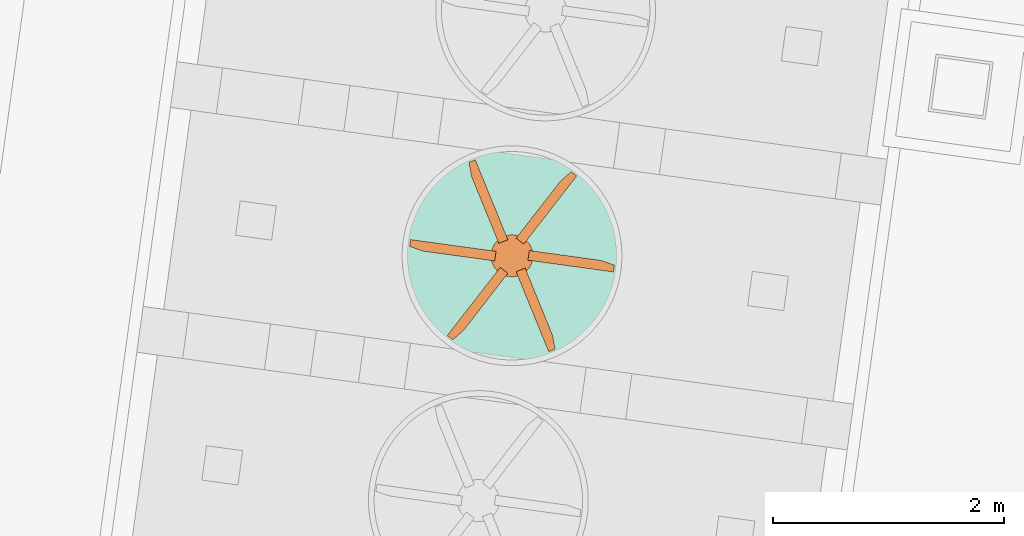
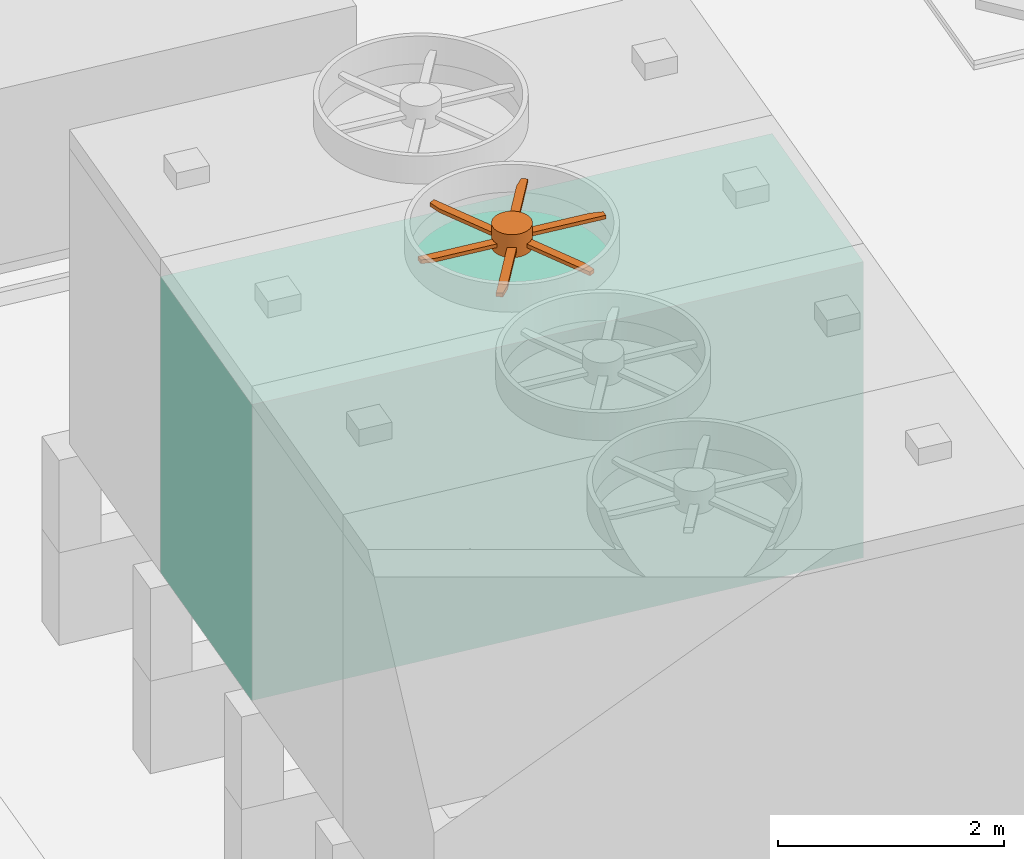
# Not in any storey, part 43 of 75: 7 proxies, plus 1 element that does not belong to this part.
"""IFC4 model written with IfcOpenShell, lengths in metres."""

from ifc_helpers import new_model, si_unit, direction, origin_with_axes, place, context, subcontext, project, spatial, triangles, element, aggregate, save


model = new_model("IFC4")

# Units and contexts
model_context = context("Model", 3, precision=1e-05, world=origin_with_axes(), true_north=direction((0.0, 1.0)))
body_context = subcontext(model_context, "Body", "Model", "MODEL_VIEW")
ifc_project = project(units=[si_unit("AREAUNIT", "SQUARE_METRE"), si_unit("VOLUMEUNIT", "CUBIC_METRE"), si_unit("LENGTHUNIT", "METRE")], contexts=[model_context])

# Site
site_placement = place(None, origin_with_axes())
site = spatial("IfcSite", under=ifc_project, at=site_placement, Name="Parcela industrial Jinhong")

# Cooling tower, proxies
cooling_tower_placement = place(site_placement, origin_with_axes())
cooling_tower = element("IfcCoolingTower", 1, at=cooling_tower_placement, inside=site, Name="Torre de refrigeración WT3001B · Envolvente del cuerpo de la torre", ObjectType="Envolvente de equipo", PredefinedType="USERDEFINED", context=body_context, shape_type="Tessellation", body=[
    triangles([(42.240363, 46.344292, 6.3), (36.736357, 49.261142, 6.3), (36.44488, 47.141085, 6.3), (36.736357, 49.261142, 3.1), (42.240363, 46.344292, 3.1), (36.44488, 47.141085, 3.1), (42.53184, 48.464349, 6.3), (42.53184, 48.464349, 3.1)], [[1, 2, 3], [4, 5, 6], [1, 7, 2], [5, 4, 8], [5, 8, 7], [5, 7, 1], [8, 4, 2], [7, 8, 2], [3, 4, 6], [4, 3, 2], [6, 5, 1], [3, 6, 1]], closed=True),
])
proxy_1_placement = place(cooling_tower_placement, origin_with_axes())
proxy_1 = element("IfcBuildingElementProxy", 2, at=proxy_1_placement, Name="Torre de refrigeración WT3001B · Pala de ventilador 1 · contorno CAD", context=body_context, shape_type="Tessellation", body=[
    triangles([(39.170679, 48.634088, 6.66), (39.374051, 47.909715, 6.66), (39.452796, 47.941805, 6.66), (39.170679, 48.634088, 6.62), (39.452796, 47.941805, 6.62), (39.374051, 47.909715, 6.62), (39.114607, 48.610435, 6.66), (39.142441, 48.622741, 6.66), (39.142441, 48.622741, 6.62), (39.114607, 48.610435, 6.62), (39.138424, 48.487918, 6.66), (39.138424, 48.487918, 6.62)], [[1, 2, 3], [4, 5, 6], [8, 7, 1], [9, 4, 10], [11, 2, 7], [10, 6, 12], [2, 1, 7], [6, 10, 4], [8, 4, 9], [8, 1, 4], [7, 9, 10], [7, 8, 9], [11, 10, 12], [10, 11, 7], [6, 2, 12], [12, 2, 11], [6, 5, 3], [6, 3, 2], [4, 1, 5], [1, 3, 5]], closed=True),
])
proxy_2_placement = place(cooling_tower_placement, origin_with_axes())
proxy_2 = element("IfcBuildingElementProxy", 3, at=proxy_2_placement, Name="Torre de refrigeración WT3001B · Pala de ventilador 2 · contorno CAD", context=body_context, shape_type="Tessellation", body=[
    triangles([(39.602668, 47.695718, 6.66), (39.523923, 47.663628, 6.66), (39.806041, 46.971345, 6.66), (39.523923, 47.663628, 6.62), (39.602668, 47.695718, 6.62), (39.806041, 46.971345, 6.62), (39.862113, 46.994999, 6.66), (39.834279, 46.982692, 6.66), (39.834279, 46.982692, 6.62), (39.862113, 46.994999, 6.62), (39.838296, 47.117515, 6.66), (39.838296, 47.117515, 6.62)], [[1, 2, 3], [4, 5, 6], [8, 7, 3], [9, 6, 10], [11, 1, 7], [10, 5, 12], [1, 3, 7], [5, 10, 6], [8, 6, 9], [8, 3, 6], [7, 9, 10], [7, 8, 9], [11, 10, 12], [10, 11, 7], [5, 1, 12], [12, 1, 11], [5, 4, 2], [5, 2, 1], [3, 4, 6], [4, 3, 2]], closed=True),
])
proxy_3_placement = place(cooling_tower_placement, origin_with_axes())
proxy_3 = element("IfcBuildingElementProxy", 4, at=proxy_3_placement, Name="Torre de refrigeración WT3001B · Pala de ventilador 3 · contorno CAD", context=body_context, shape_type="Tessellation", body=[
    triangles([(39.452851, 47.650223, 6.66), (39.385688, 47.702374, 6.66), (38.927212, 47.111911, 6.66), (39.385688, 47.702374, 6.62), (39.452851, 47.650223, 6.62), (38.927212, 47.111911, 6.62), (38.975732, 47.075178, 6.66), (38.951158, 47.09313, 6.66), (38.951158, 47.09313, 6.62), (38.975732, 47.075178, 6.62), (39.069926, 47.157063, 6.66), (39.069926, 47.157063, 6.62)], [[1, 2, 3], [4, 5, 6], [8, 7, 3], [9, 6, 10], [11, 1, 7], [10, 5, 12], [1, 3, 7], [5, 10, 6], [8, 6, 9], [8, 3, 6], [7, 9, 10], [7, 8, 9], [11, 10, 12], [10, 11, 7], [5, 1, 12], [12, 1, 11], [5, 4, 2], [5, 2, 1], [3, 4, 6], [4, 3, 2]], closed=True),
])
proxy_4_placement = place(cooling_tower_placement, origin_with_axes())
proxy_4 = element("IfcBuildingElementProxy", 5, at=proxy_4_placement, Name="Torre de refrigeración WT3001B · Pala de ventilador 4 · contorno CAD", context=body_context, shape_type="Tessellation", body=[
    triangles([(40.049508, 48.493523, 6.66), (39.523869, 47.95521, 6.66), (39.591032, 47.90306, 6.66), (40.049508, 48.493523, 6.62), (39.591032, 47.90306, 6.62), (39.523869, 47.95521, 6.62), (40.000987, 48.530255, 6.66), (40.025562, 48.512304, 6.66), (40.025562, 48.512304, 6.62), (40.000987, 48.530255, 6.62), (39.906793, 48.448371, 6.66), (39.906793, 48.448371, 6.62)], [[1, 2, 3], [4, 5, 6], [8, 7, 1], [9, 4, 10], [11, 2, 7], [10, 6, 12], [2, 1, 7], [6, 10, 4], [8, 4, 9], [8, 1, 4], [7, 9, 10], [7, 8, 9], [11, 10, 12], [10, 11, 7], [6, 2, 12], [12, 2, 11], [6, 5, 3], [6, 3, 2], [4, 1, 5], [1, 3, 5]], closed=True),
])
proxy_5_placement = place(cooling_tower_placement, origin_with_axes())
proxy_5 = element("IfcBuildingElementProxy", 6, at=proxy_5_placement, Name="Torre de refrigeración WT3001B · Pala de ventilador 5 · contorno CAD", context=body_context, shape_type="Tessellation", body=[
    triangles([(40.367189, 47.662151, 6.66), (39.638177, 47.848212, 6.66), (39.626596, 47.763971, 6.66), (39.638177, 47.848212, 6.62), (40.367189, 47.662151, 6.62), (39.626596, 47.763971, 6.62), (40.374741, 47.722537, 6.66), (40.371481, 47.69228, 6.66), (40.371481, 47.69228, 6.62), (40.374741, 47.722537, 6.62), (40.25673, 47.76317, 6.66), (40.25673, 47.76317, 6.62)], [[1, 2, 3], [4, 5, 6], [8, 7, 1], [9, 5, 10], [11, 2, 7], [10, 4, 12], [7, 2, 1], [5, 4, 10], [5, 9, 8], [5, 8, 1], [7, 9, 10], [7, 8, 9], [11, 10, 12], [10, 11, 7], [12, 4, 2], [11, 12, 2], [3, 4, 6], [4, 3, 2], [6, 5, 1], [3, 6, 1]], closed=True),
])
proxy_6_placement = place(cooling_tower_placement, origin_with_axes())
proxy_6 = element("IfcBuildingElementProxy", 7, at=proxy_6_placement, Name="Torre de refrigeración WT3001B · Pala de ventilador 6 · contorno CAD", context=body_context, shape_type="Tessellation", body=[
    triangles([(39.350124, 47.841462, 6.66), (38.609531, 47.943283, 6.66), (39.338542, 47.757222, 6.66), (38.609531, 47.943283, 6.62), (39.350124, 47.841462, 6.62), (39.338542, 47.757222, 6.62), (38.601979, 47.882896, 6.66), (38.605239, 47.913154, 6.66), (38.605239, 47.913154, 6.62), (38.601979, 47.882896, 6.62), (38.71999, 47.842264, 6.66), (38.71999, 47.842264, 6.62)], [[1, 2, 3], [4, 5, 6], [8, 7, 2], [9, 4, 10], [11, 3, 7], [10, 6, 12], [7, 3, 2], [10, 4, 6], [4, 9, 8], [4, 8, 2], [7, 9, 10], [7, 8, 9], [11, 10, 12], [10, 11, 7], [12, 6, 3], [11, 12, 3], [5, 1, 6], [1, 3, 6], [5, 4, 2], [5, 2, 1]], closed=True),
])
proxy_7_placement = place(cooling_tower_placement, origin_with_axes())
proxy_7 = element("IfcBuildingElementProxy", 8, at=proxy_7_placement, Name="Torre de refrigeración WT3001B · Envolvente del buje del ventilador", context=body_context, shape_type="Tessellation", body=[
    triangles([(39.668857, 47.777901, 6.8), (39.665556, 47.760329, 6.8), (39.667422, 47.769074, 6.8), (39.665556, 47.760329, 6.55), (39.668857, 47.777901, 6.55), (39.667422, 47.769074, 6.55), (39.67042, 47.795712, 6.8), (39.669857, 47.786788, 6.8), (39.669857, 47.786788, 6.55), (39.67042, 47.795712, 6.55), (39.67023, 47.813591, 6.8), (39.670545, 47.804654, 6.8), (39.670545, 47.804654, 6.55), (39.67023, 47.813591, 6.55), (39.668289, 47.831365, 6.8), (39.669478, 47.822502, 6.8), (39.669478, 47.822502, 6.55), (39.668289, 47.831365, 6.55), (39.664614, 47.848863, 6.8), (39.666666, 47.840159, 6.8), (39.666666, 47.840159, 6.55), (39.664614, 47.848863, 6.55), (39.659242, 47.865917, 6.8), (39.662138, 47.857456, 6.8), (39.662138, 47.857456, 6.55), (39.659242, 47.865917, 6.55), (39.652225, 47.882362, 6.8), (39.655935, 47.874226, 6.8), (39.655935, 47.874226, 6.55), (39.652225, 47.882362, 6.55), (39.643629, 47.89804, 6.8), (39.648119, 47.890307, 6.8), (39.648119, 47.890307, 6.55), (39.643629, 47.89804, 6.55), (39.633538, 47.9128, 6.8), (39.638765, 47.905544, 6.8), (39.638765, 47.905544, 6.55), (39.633538, 47.9128, 6.55), (39.622049, 47.9265, 6.8), (39.627962, 47.919791, 6.8), (39.627962, 47.919791, 6.55), (39.622049, 47.9265, 6.55), (39.609272, 47.939008, 6.8), (39.615814, 47.932911, 6.8), (39.615814, 47.932911, 6.55), (39.609272, 47.939008, 6.55), (39.595331, 47.950203, 6.8), (39.602439, 47.944777, 6.8), (39.602439, 47.944777, 6.55), (39.595331, 47.950203, 6.55), (39.58036, 47.959978, 6.8), (39.587966, 47.955274, 6.8), (39.587966, 47.955274, 6.55), (39.58036, 47.959978, 6.55), (39.564503, 47.968238, 6.8), (39.572533, 47.964303, 6.8), (39.572533, 47.964303, 6.55), (39.564503, 47.968238, 6.55), (39.547912, 47.974905, 6.8), (39.556289, 47.971775, 6.8), (39.556289, 47.971775, 6.55), (39.547912, 47.974905, 6.55), (39.530748, 47.979913, 6.8), (39.539392, 47.977619, 6.8), (39.539392, 47.977619, 6.55), (39.530748, 47.979913, 6.55), (39.513176, 47.983214, 6.8), (39.522002, 47.981779, 6.8), (39.522002, 47.981779, 6.55), (39.513176, 47.983214, 6.55), (39.495364, 47.984777, 6.8), (39.504289, 47.984214, 6.8), (39.504289, 47.984214, 6.55), (39.495364, 47.984777, 6.55), (39.486423, 47.984902, 6.8), (39.477486, 47.984587, 6.8), (39.477486, 47.984587, 6.55), (39.486423, 47.984902, 6.55), (39.459712, 47.982645, 6.8), (39.468575, 47.983834, 6.8), (39.468575, 47.983834, 6.55), (39.459712, 47.982645, 6.55), (39.442213, 47.978971, 6.8), (39.450917, 47.981023, 6.8), (39.450917, 47.981023, 6.55), (39.442213, 47.978971, 6.55), (39.42516, 47.973599, 6.8), (39.433621, 47.976494, 6.8), (39.433621, 47.976494, 6.55), (39.42516, 47.973599, 6.55), (39.408715, 47.966582, 6.8), (39.416851, 47.970292, 6.8), (39.416851, 47.970292, 6.55), (39.408715, 47.966582, 6.55), (39.393036, 47.957986, 6.8), (39.40077, 47.962476, 6.8), (39.40077, 47.962476, 6.55), (39.393036, 47.957986, 6.55), (39.378276, 47.947895, 6.8), (39.385533, 47.953122, 6.8), (39.385533, 47.953122, 6.55), (39.378276, 47.947895, 6.55), (39.364577, 47.936406, 6.8), (39.371286, 47.942319, 6.8), (39.371286, 47.942319, 6.55), (39.364577, 47.936406, 6.55), (39.352069, 47.923629, 6.8), (39.358166, 47.930171, 6.8), (39.358166, 47.930171, 6.55), (39.352069, 47.923629, 6.55), (39.340874, 47.909688, 6.8), (39.3463, 47.916796, 6.8), (39.3463, 47.916796, 6.55), (39.340874, 47.909688, 6.55), (39.331099, 47.894717, 6.8), (39.335802, 47.902322, 6.8), (39.335802, 47.902322, 6.55), (39.331099, 47.894717, 6.55), (39.322838, 47.878859, 6.8), (39.326774, 47.88689, 6.8), (39.326774, 47.88689, 6.55), (39.322838, 47.878859, 6.55), (39.316172, 47.862269, 6.8), (39.319302, 47.870646, 6.8), (39.319302, 47.870646, 6.55), (39.316172, 47.862269, 6.55), (39.311164, 47.845105, 6.8), (39.313458, 47.853748, 6.8), (39.313458, 47.853748, 6.55), (39.311164, 47.845105, 6.55), (39.307863, 47.827532, 6.8), (39.309298, 47.836359, 6.8), (39.309298, 47.836359, 6.55), (39.307863, 47.827532, 6.55), (39.306299, 47.809721, 6.8), (39.306862, 47.818646, 6.8), (39.306862, 47.818646, 6.55), (39.306299, 47.809721, 6.55), (39.30649, 47.791842, 6.8), (39.306175, 47.800779, 6.8), (39.306175, 47.800779, 6.55), (39.30649, 47.791842, 6.55), (39.308431, 47.774068, 6.8), (39.307242, 47.782931, 6.8), (39.307242, 47.782931, 6.55), (39.308431, 47.774068, 6.55), (39.312106, 47.75657, 6.8), (39.310054, 47.765274, 6.8), (39.310054, 47.765274, 6.55), (39.312106, 47.75657, 6.55), (39.317478, 47.739516, 6.8), (39.314582, 47.747977, 6.8), (39.314582, 47.747977, 6.55), (39.317478, 47.739516, 6.55), (39.324495, 47.723071, 6.8), (39.320784, 47.731208, 6.8), (39.320784, 47.731208, 6.55), (39.324495, 47.723071, 6.55), (39.333091, 47.707393, 6.8), (39.3286, 47.715127, 6.8), (39.3286, 47.715127, 6.55), (39.333091, 47.707393, 6.55), (39.343182, 47.692633, 6.8), (39.337955, 47.699889, 6.8), (39.337955, 47.699889, 6.55), (39.343182, 47.692633, 6.55), (39.354671, 47.678933, 6.8), (39.348758, 47.685642, 6.8), (39.348758, 47.685642, 6.55), (39.354671, 47.678933, 6.55), (39.367448, 47.666426, 6.8), (39.360906, 47.672523, 6.8), (39.360906, 47.672523, 6.55), (39.367448, 47.666426, 6.55), (39.381389, 47.65523, 6.8), (39.374281, 47.660657, 6.8), (39.374281, 47.660657, 6.55), (39.381389, 47.65523, 6.55), (39.39636, 47.645456, 6.8), (39.388754, 47.650159, 6.8), (39.388754, 47.650159, 6.55), (39.39636, 47.645456, 6.55), (39.412217, 47.637195, 6.8), (39.404187, 47.641131, 6.8), (39.404187, 47.641131, 6.55), (39.412217, 47.637195, 6.55), (39.428808, 47.630529, 6.8), (39.420431, 47.633658, 6.8), (39.420431, 47.633658, 6.55), (39.428808, 47.630529, 6.55), (39.445972, 47.625521, 6.8), (39.437328, 47.627814, 6.8), (39.437328, 47.627814, 6.55), (39.445972, 47.625521, 6.55), (39.463544, 47.622219, 6.8), (39.454718, 47.623655, 6.8), (39.454718, 47.623655, 6.55), (39.463544, 47.622219, 6.55), (39.481356, 47.620656, 6.8), (39.472431, 47.621219, 6.8), (39.472431, 47.621219, 6.55), (39.481356, 47.620656, 6.55), (39.499234, 47.620846, 6.8), (39.490297, 47.620532, 6.8), (39.490297, 47.620532, 6.55), (39.499234, 47.620846, 6.55), (39.517008, 47.622788, 6.8), (39.508145, 47.621599, 6.8), (39.508145, 47.621599, 6.55), (39.517008, 47.622788, 6.55), (39.534507, 47.626462, 6.8), (39.525803, 47.62441, 6.8), (39.525803, 47.62441, 6.55), (39.534507, 47.626462, 6.55), (39.55156, 47.631834, 6.8), (39.543099, 47.628939, 6.8), (39.543099, 47.628939, 6.55), (39.55156, 47.631834, 6.55), (39.568005, 47.638852, 6.8), (39.559869, 47.635141, 6.8), (39.559869, 47.635141, 6.55), (39.568005, 47.638852, 6.55), (39.583683, 47.647448, 6.8), (39.57595, 47.642957, 6.8), (39.57595, 47.642957, 6.55), (39.583683, 47.647448, 6.55), (39.598443, 47.657539, 6.8), (39.591187, 47.652312, 6.8), (39.591187, 47.652312, 6.55), (39.598443, 47.657539, 6.55), (39.612143, 47.669028, 6.8), (39.605434, 47.663115, 6.8), (39.605434, 47.663115, 6.55), (39.612143, 47.669028, 6.55), (39.624651, 47.681804, 6.8), (39.618554, 47.675262, 6.8), (39.618554, 47.675262, 6.55), (39.624651, 47.681804, 6.55), (39.635846, 47.695745, 6.8), (39.63042, 47.688637, 6.8), (39.63042, 47.688637, 6.55), (39.635846, 47.695745, 6.55), (39.645621, 47.710717, 6.8), (39.640917, 47.703111, 6.8), (39.640917, 47.703111, 6.55), (39.645621, 47.710717, 6.55), (39.653881, 47.726574, 6.8), (39.649946, 47.718544, 6.8), (39.649946, 47.718544, 6.55), (39.653881, 47.726574, 6.55), (39.660548, 47.743165, 6.8), (39.657418, 47.734787, 6.8), (39.657418, 47.734787, 6.55), (39.660548, 47.743165, 6.55), (39.663262, 47.751685, 6.8), (39.663262, 47.751685, 6.55)], [[1, 2, 3], [4, 5, 6], [8, 7, 1], [9, 5, 10], [12, 11, 7], [13, 10, 14], [16, 15, 11], [17, 14, 18], [20, 19, 15], [21, 18, 22], [24, 23, 19], [25, 22, 26], [28, 27, 23], [29, 26, 30], [32, 31, 27], [33, 30, 34], [36, 35, 31], [37, 34, 38], [40, 39, 35], [41, 38, 42], [44, 43, 39], [45, 42, 46], [48, 47, 43], [49, 46, 50], [52, 51, 47], [53, 50, 54], [56, 55, 51], [57, 54, 58], [60, 59, 55], [61, 58, 62], [64, 63, 59], [65, 62, 66], [68, 67, 63], [69, 66, 70], [72, 71, 67], [73, 70, 74], [71, 75, 76], [77, 78, 74], [80, 79, 76], [81, 77, 82], [84, 83, 79], [85, 82, 86], [88, 87, 83], [89, 86, 90], [92, 91, 87], [93, 90, 94], [96, 95, 91], [97, 94, 98], [100, 99, 95], [101, 98, 102], [104, 103, 99], [105, 102, 106], [108, 107, 103], [109, 106, 110], [112, 111, 107], [113, 110, 114], [116, 115, 111], [117, 114, 118], [120, 119, 115], [121, 118, 122], [124, 123, 119], [125, 122, 126], [128, 127, 123], [129, 126, 130], [132, 131, 127], [133, 130, 134], [136, 135, 131], [137, 134, 138], [140, 139, 135], [141, 138, 142], [144, 143, 139], [145, 142, 146], [148, 147, 143], [149, 146, 150], [152, 151, 147], [153, 150, 154], [156, 155, 151], [157, 154, 158], [160, 159, 155], [161, 158, 162], [164, 163, 159], [165, 162, 166], [168, 167, 163], [169, 166, 170], [172, 171, 167], [173, 170, 174], [176, 175, 171], [177, 174, 178], [180, 179, 175], [181, 178, 182], [184, 183, 179], [185, 182, 186], [188, 187, 183], [189, 186, 190], [192, 191, 187], [193, 190, 194], [196, 195, 191], [197, 194, 198], [200, 199, 195], [201, 198, 202], [204, 203, 199], [205, 202, 206], [208, 207, 203], [209, 206, 210], [212, 211, 207], [213, 210, 214], [216, 215, 211], [217, 214, 218], [220, 219, 215], [221, 218, 222], [224, 223, 219], [225, 222, 226], [228, 227, 223], [229, 226, 230], [232, 231, 227], [233, 230, 234], [236, 235, 231], [237, 234, 238], [240, 239, 235], [241, 238, 242], [244, 243, 239], [245, 242, 246], [248, 247, 243], [249, 246, 250], [252, 251, 247], [253, 250, 254], [255, 2, 251], [254, 4, 256], [7, 2, 1], [5, 4, 10], [11, 15, 7], [14, 10, 18], [19, 23, 15], [22, 18, 26], [27, 31, 23], [30, 26, 34], [35, 39, 31], [38, 34, 42], [43, 47, 39], [46, 42, 50], [51, 55, 47], [54, 50, 58], [59, 63, 55], [62, 58, 66], [67, 71, 63], [70, 66, 74], [71, 76, 79], [82, 77, 74], [83, 87, 79], [86, 82, 90], [91, 95, 87], [94, 90, 98], [99, 103, 95], [102, 98, 106], [107, 111, 103], [110, 106, 114], [115, 119, 111], [118, 114, 122], [123, 127, 119], [126, 122, 130], [131, 135, 127], [134, 130, 138], [139, 143, 135], [142, 138, 146], [147, 151, 143], [150, 146, 154], [155, 159, 151], [158, 154, 162], [163, 167, 159], [166, 162, 170], [171, 175, 167], [174, 170, 178], [179, 183, 175], [182, 178, 186], [187, 191, 183], [190, 186, 194], [195, 199, 191], [198, 194, 202], [203, 207, 199], [206, 202, 210], [211, 215, 207], [214, 210, 218], [219, 223, 215], [222, 218, 226], [227, 231, 223], [230, 226, 234], [235, 239, 231], [238, 234, 242], [243, 247, 239], [246, 242, 250], [251, 2, 247], [250, 4, 254], [7, 15, 2], [10, 4, 18], [23, 31, 15], [26, 18, 34], [39, 47, 31], [42, 34, 50], [55, 63, 47], [58, 50, 66], [63, 71, 79], [82, 74, 66], [87, 95, 79], [90, 82, 98], [103, 111, 95], [106, 98, 114], [119, 127, 111], [122, 114, 130], [135, 143, 127], [138, 130, 146], [151, 159, 143], [154, 146, 162], [167, 175, 159], [170, 162, 178], [183, 191, 175], [186, 178, 194], [199, 207, 191], [202, 194, 210], [215, 223, 207], [218, 210, 226], [231, 239, 223], [234, 226, 242], [247, 2, 239], [242, 4, 250], [15, 31, 2], [18, 4, 34], [47, 63, 31], [50, 34, 66], [63, 79, 95], [98, 82, 66], [111, 127, 95], [114, 98, 130], [143, 159, 127], [146, 130, 162], [175, 191, 159], [178, 162, 194], [207, 223, 191], [210, 194, 226], [239, 2, 223], [226, 4, 242], [2, 31, 63], [66, 34, 4], [63, 95, 127], [130, 98, 66], [127, 159, 191], [194, 162, 130], [223, 2, 191], [194, 4, 226], [2, 63, 127], [130, 66, 4], [191, 2, 127], [130, 4, 194], [5, 9, 8], [5, 8, 1], [7, 9, 10], [7, 8, 9], [10, 13, 12], [10, 12, 7], [11, 13, 14], [11, 12, 13], [14, 17, 16], [14, 16, 11], [15, 17, 18], [15, 16, 17], [18, 21, 20], [18, 20, 15], [19, 21, 22], [19, 20, 21], [22, 25, 24], [22, 24, 19], [23, 25, 26], [23, 24, 25], [26, 29, 28], [26, 28, 23], [27, 29, 30], [27, 28, 29], [30, 33, 32], [30, 32, 27], [31, 33, 34], [31, 32, 33], [34, 37, 36], [34, 36, 31], [35, 37, 38], [35, 36, 37], [38, 41, 40], [38, 40, 35], [39, 41, 42], [39, 40, 41], [42, 45, 44], [42, 44, 39], [43, 45, 46], [43, 44, 45], [48, 46, 49], [48, 43, 46], [47, 49, 50], [47, 48, 49], [52, 50, 53], [52, 47, 50], [51, 53, 54], [51, 52, 53], [56, 54, 57], [56, 51, 54], [55, 57, 58], [55, 56, 57], [60, 58, 61], [60, 55, 58], [59, 61, 62], [59, 60, 61], [64, 62, 65], [64, 59, 62], [63, 65, 66], [63, 64, 65], [68, 66, 69], [68, 63, 66], [67, 69, 70], [67, 68, 69], [72, 70, 73], [72, 67, 70], [71, 73, 74], [71, 72, 73], [75, 74, 78], [75, 71, 74], [78, 77, 76], [78, 76, 75], [80, 77, 81], [80, 76, 77], [79, 81, 82], [79, 80, 81], [84, 82, 85], [84, 79, 82], [83, 85, 86], [83, 84, 85], [88, 86, 89], [88, 83, 86], [87, 89, 90], [87, 88, 89], [92, 90, 93], [92, 87, 90], [91, 93, 94], [91, 92, 93], [96, 94, 97], [96, 91, 94], [95, 97, 98], [95, 96, 97], [100, 98, 101], [100, 95, 98], [99, 101, 102], [99, 100, 101], [104, 102, 105], [104, 99, 102], [103, 105, 106], [103, 104, 105], [108, 106, 109], [108, 103, 106], [107, 109, 110], [107, 108, 109], [110, 113, 112], [110, 112, 107], [111, 113, 114], [111, 112, 113], [114, 117, 116], [114, 116, 111], [115, 117, 118], [115, 116, 117], [118, 121, 120], [118, 120, 115], [119, 121, 122], [119, 120, 121], [122, 125, 124], [122, 124, 119], [123, 125, 126], [123, 124, 125], [126, 129, 128], [126, 128, 123], [127, 129, 130], [127, 128, 129], [130, 133, 132], [130, 132, 127], [131, 133, 134], [131, 132, 133], [134, 137, 136], [134, 136, 131], [135, 137, 138], [135, 136, 137], [138, 141, 140], [138, 140, 135], [139, 141, 142], [139, 140, 141], [142, 145, 144], [142, 144, 139], [143, 145, 146], [143, 144, 145], [146, 149, 148], [146, 148, 143], [147, 149, 150], [147, 148, 149], [150, 153, 152], [150, 152, 147], [151, 153, 154], [151, 152, 153], [154, 157, 156], [154, 156, 151], [155, 157, 158], [155, 156, 157], [158, 161, 160], [158, 160, 155], [159, 161, 162], [159, 160, 161], [162, 165, 164], [162, 164, 159], [163, 165, 166], [163, 164, 165], [166, 169, 168], [166, 168, 163], [167, 169, 170], [167, 168, 169], [170, 173, 172], [170, 172, 167], [171, 173, 174], [171, 172, 173], [176, 174, 177], [176, 171, 174], [175, 177, 178], [175, 176, 177], [180, 178, 181], [180, 175, 178], [179, 181, 182], [179, 180, 181], [184, 182, 185], [184, 179, 182], [183, 185, 186], [183, 184, 185], [188, 186, 189], [188, 183, 186], [187, 189, 190], [187, 188, 189], [192, 190, 193], [192, 187, 190], [191, 193, 194], [191, 192, 193], [196, 194, 197], [196, 191, 194], [195, 197, 198], [195, 196, 197], [200, 198, 201], [200, 195, 198], [199, 201, 202], [199, 200, 201], [204, 202, 205], [204, 199, 202], [203, 205, 206], [203, 204, 205], [208, 206, 209], [208, 203, 206], [207, 209, 210], [207, 208, 209], [212, 210, 213], [212, 207, 210], [211, 213, 214], [211, 212, 213], [216, 214, 217], [216, 211, 214], [215, 217, 218], [215, 216, 217], [220, 218, 221], [220, 215, 218], [219, 221, 222], [219, 220, 221], [224, 222, 225], [224, 219, 222], [223, 225, 226], [223, 224, 225], [228, 226, 229], [228, 223, 226], [227, 229, 230], [227, 228, 229], [232, 230, 233], [232, 227, 230], [231, 233, 234], [231, 232, 233], [236, 234, 237], [236, 231, 234], [235, 237, 238], [235, 236, 237], [238, 241, 240], [238, 240, 235], [239, 241, 242], [239, 240, 241], [242, 245, 244], [242, 244, 239], [243, 245, 246], [243, 244, 245], [246, 249, 248], [246, 248, 243], [247, 249, 250], [247, 248, 249], [250, 253, 252], [250, 252, 247], [251, 253, 254], [251, 252, 253], [254, 256, 255], [254, 255, 251], [256, 4, 2], [256, 2, 255], [3, 4, 6], [4, 3, 2], [6, 5, 1], [1, 3, 6]], closed=True),
])
aggregate(cooling_tower, [proxy_1, proxy_2, proxy_3, proxy_4, proxy_5, proxy_6, proxy_7])

save(model, "model.ifc")
